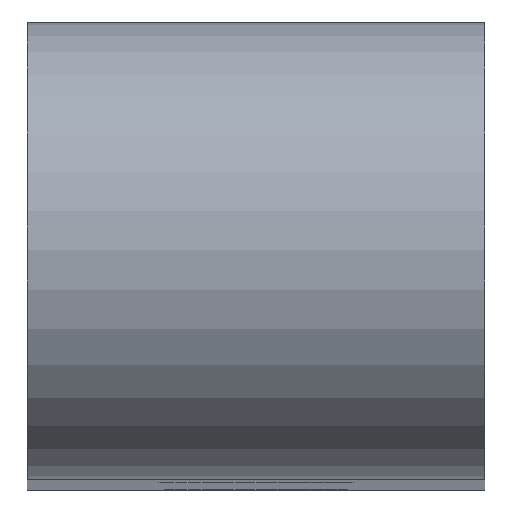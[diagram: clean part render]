
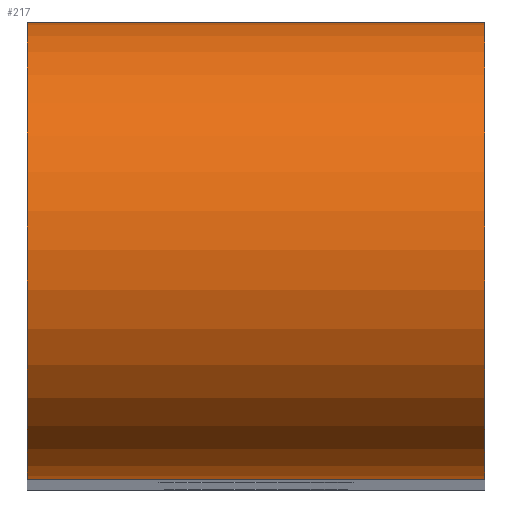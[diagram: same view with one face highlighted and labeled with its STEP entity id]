
A CAD part, top view. The second image highlights one B-rep face of the part: STEP entity #217.
In plain terms, the highlighted cylindrical face has radius 4 mm (diameter 8 mm), a partial arc.
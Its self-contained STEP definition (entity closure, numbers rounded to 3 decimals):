
#1=DIRECTION('',(-1.,0.,0.));
#2=VECTOR('',#1,8.);
#3=CARTESIAN_POINT('',(4.,0.,-4.));
#4=LINE('',#3,#2);
#37=CARTESIAN_POINT('',(4.,4.,-4.));
#38=DIRECTION('',(-1.,0.,0.));
#39=DIRECTION('',(0.,-1.,0.));
#40=AXIS2_PLACEMENT_3D('',#37,#38,#39);
#52=DIRECTION('',(1.,0.,0.));
#53=VECTOR('',#52,8.);
#54=CARTESIAN_POINT('',(-4.,8.,-4.));
#55=LINE('',#54,#53);
#88=CARTESIAN_POINT('',(-4.,4.,-4.));
#89=DIRECTION('',(1.,0.,0.));
#90=DIRECTION('',(0.,1.,0.));
#91=AXIS2_PLACEMENT_3D('',#88,#89,#90);
#143=CARTESIAN_POINT('',(4.,0.,-4.));
#144=CARTESIAN_POINT('',(4.,8.,-4.));
#145=VERTEX_POINT('',#143);
#146=VERTEX_POINT('',#144);
#147=CARTESIAN_POINT('',(-4.,0.,-4.));
#148=VERTEX_POINT('',#147);
#149=CARTESIAN_POINT('',(-4.,8.,-4.));
#150=VERTEX_POINT('',#149);
#203=CARTESIAN_POINT('',(-14.429,4.,-4.));
#204=DIRECTION('',(1.,0.,0.));
#205=DIRECTION('',(0.,1.,0.));
#206=AXIS2_PLACEMENT_3D('',#203,#204,#205);
#207=CYLINDRICAL_SURFACE('',#206,4.);
#209=ORIENTED_EDGE('',*,*,#208,.F.);
#210=ORIENTED_EDGE('',*,*,#180,.T.);
#212=ORIENTED_EDGE('',*,*,#211,.F.);
#214=ORIENTED_EDGE('',*,*,#213,.T.);
#215=EDGE_LOOP('',(#209,#210,#212,#214));
#216=FACE_OUTER_BOUND('',#215,.F.);
#217=ADVANCED_FACE('',(#216),#207,.T.);
#41=CIRCLE('',#40,4.);
#92=CIRCLE('',#91,4.);
#180=EDGE_CURVE('',#145,#148,#4,.T.);
#208=EDGE_CURVE('',#145,#146,#41,.T.);
#211=EDGE_CURVE('',#150,#148,#92,.T.);
#213=EDGE_CURVE('',#150,#146,#55,.T.);
